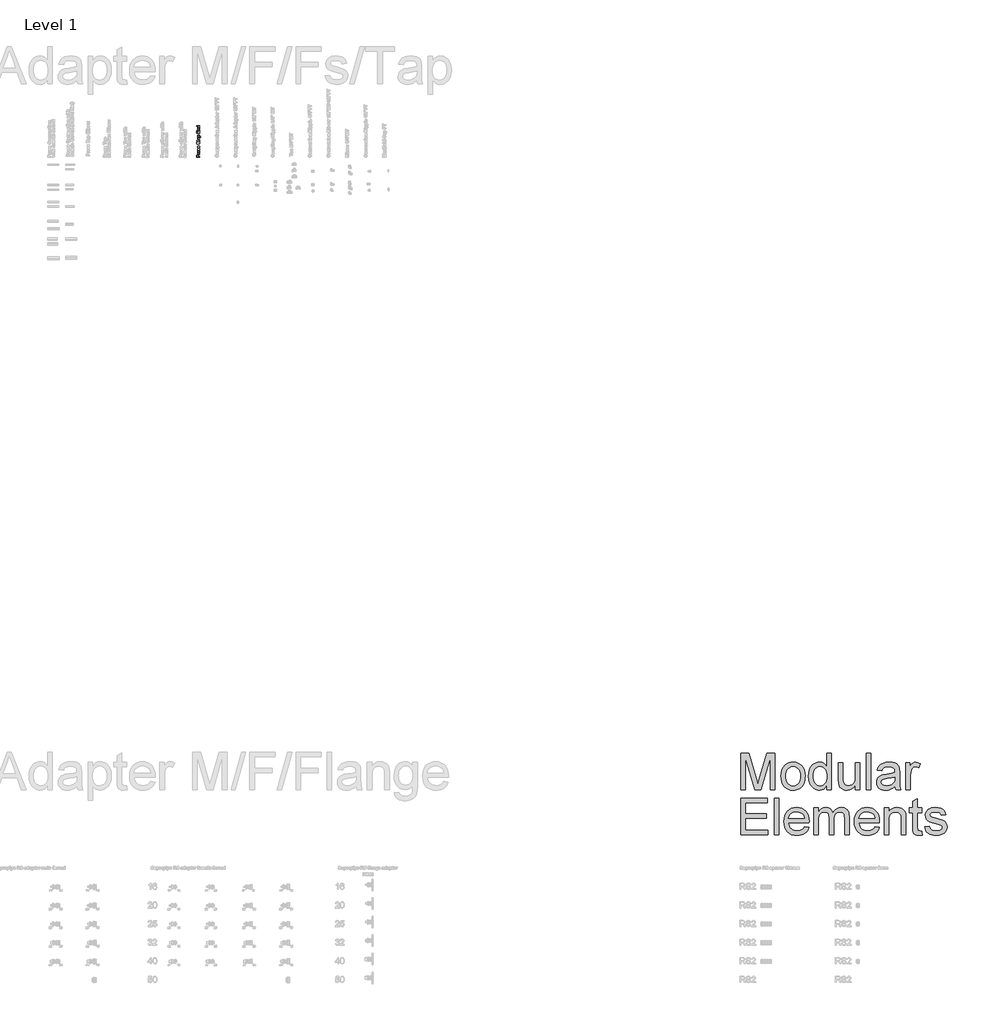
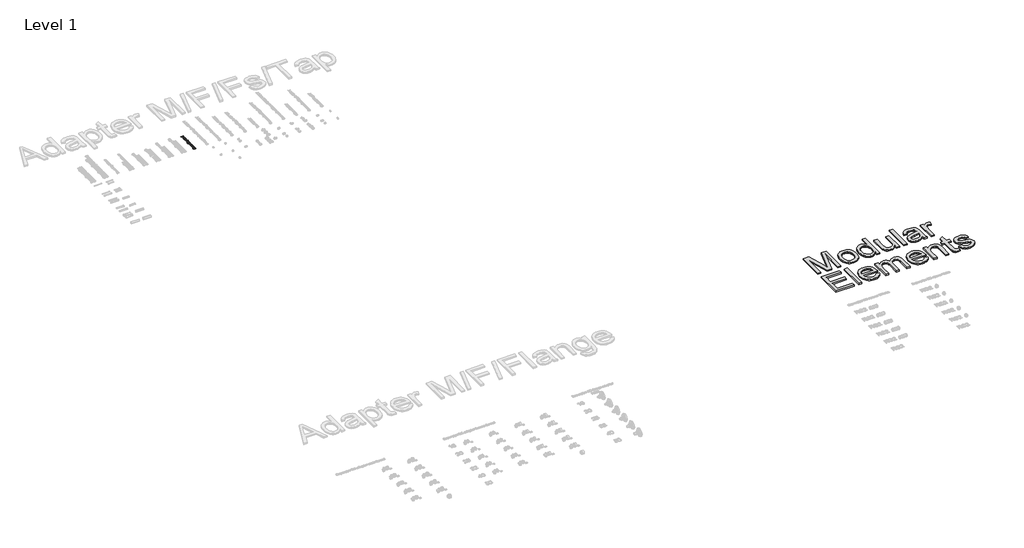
# One storey, part 53 of 58: 2 proxies.
"""IFC4 building model written with IfcOpenShell, lengths in millimetres."""

import ifcopenshell
import ifcopenshell.guid

model = None  # the IFC model being written
_history = None  # IfcOwnerHistory: only IFC2X3 demands one
_inside = {}  # id of a spatial element -> (the spatial element, [elements in it])
_under = {}  # id of a project, library or spatial element -> (it, [spatial elements below it])
_declared = {}  # id of a project -> (the project, [libraries it declares])
_typed = {}  # id of a type object -> (the type object, [elements of that type])
_made_of = {}  # id of a material, layer set ... -> (it, [elements and type objects made of it])


def new_model(schema):
    """Start an empty IFC model of exactly this schema.

    Asked for "IFC4X3", IfcOpenShell would pick the latest addendum, in which some entities
    have other attributes; the version numbers below select the first issue.
    IFC2X3 requires an IfcOwnerHistory on every rooted entity: one is made here for all.
    """
    global model, _history
    if schema == "IFC4X3":
        model = ifcopenshell.file(schema_version=(4, 3, 0, 0))
    else:
        model = ifcopenshell.file(schema=schema)
    _inside.clear()
    _under.clear()
    _declared.clear()
    _typed.clear()
    _made_of.clear()
    _history = None
    if model.schema == "IFC2X3":
        org = make("IfcOrganization", Name="unknown")
        user = make(
            "IfcPersonAndOrganization",
            ThePerson=make("IfcPerson", FamilyName="unknown"),
            TheOrganization=org,
        )
        app = make(
            "IfcApplication",
            ApplicationDeveloper=org,
            Version="unknown",
            ApplicationFullName="unknown",
            ApplicationIdentifier="unknown",
        )
        _history = make(
            "IfcOwnerHistory",
            OwningUser=user,
            OwningApplication=app,
            ChangeAction="ADDED",
            CreationDate=0,
        )
    return model


def make(cls, **values):
    """One entity of the class cls with the attributes given. An attribute that is None is left unset."""
    return model.create_entity(
        cls, **{name: value for name, value in values.items() if value is not None}
    )


def rooted(cls, **values):
    """An entity with a GlobalId (a new one), such as an element, a storey or a relation."""
    return make(cls, GlobalId=ifcopenshell.guid.new(), OwnerHistory=_history, **values)


def si_unit(unit_type, name, prefix=None):
    """IfcSIUnit, for example si_unit("LENGTHUNIT", "METRE", prefix="MILLI")."""
    return make("IfcSIUnit", UnitType=unit_type, Prefix=prefix, Name=name)


def assignment(units):
    """IfcUnitAssignment: the units of a project."""
    return None if units is None else make("IfcUnitAssignment", Units=units)


def point(xyz):
    """IfcCartesianPoint."""
    return None if xyz is None else make("IfcCartesianPoint", Coordinates=xyz)


def direction(xyz):
    """IfcDirection."""
    return None if xyz is None else make("IfcDirection", DirectionRatios=xyz)


def frame(location, z_axis=None, x_axis=None):
    """IfcAxis2Placement3D, a coordinate frame: its origin and axes. An axis left out is left unset."""
    return make(
        "IfcAxis2Placement3D",
        Location=point(location),
        Axis=direction(z_axis),
        RefDirection=direction(x_axis),
    )


def origin():
    """The frame at (0, 0, 0) with its axes left unset."""
    return frame((0.0, 0.0, 0.0))


def place(relative_to, where):
    """IfcLocalPlacement: puts the frame where relative to a parent placement (None: the world)."""
    return make(
        "IfcLocalPlacement", PlacementRelTo=relative_to, RelativePlacement=where
    )


def context(
    kind, dimensions, precision=None, world=None, true_north=None, identifier=None
):
    """IfcGeometricRepresentationContext, for example the 3D "Model" context."""
    return make(
        "IfcGeometricRepresentationContext",
        ContextIdentifier=identifier,
        ContextType=kind,
        CoordinateSpaceDimension=dimensions,
        Precision=precision,
        WorldCoordinateSystem=world,
        TrueNorth=true_north,
    )


def project(units=None, contexts=None):
    """IfcProject with its units and contexts."""
    return rooted(
        "IfcProject",
        Name="project",
        RepresentationContexts=contexts,
        UnitsInContext=assignment(units),
    )


def spatial(cls, under=None, at=None, **own):
    """A site, building, storey or space (cls), placed at a placement, below another one or the project."""
    s = rooted(cls, ObjectPlacement=at, **own)
    if under is not None:
        _under.setdefault(under.id(), (under, []))[1].append(s)
    return s


def polyline(points):
    """IfcPolyline through the points."""
    return make("IfcPolyline", Points=[point(p) for p in points])


def outline(outer, holes=None, kind="AREA"):
    """IfcArbitraryClosedProfileDef: a profile drawn as a closed curve; with holes, ...WithVoids."""
    if holes is None:
        return make("IfcArbitraryClosedProfileDef", ProfileType=kind, OuterCurve=outer)
    return make(
        "IfcArbitraryProfileDefWithVoids",
        ProfileType=kind,
        OuterCurve=outer,
        InnerCurves=holes,
    )


def extrude(swept, where, along, depth):
    """IfcExtrudedAreaSolid: the profile swept, set in the frame where, extruded along a direction by depth."""
    return make(
        "IfcExtrudedAreaSolid",
        SweptArea=swept,
        Position=where,
        ExtrudedDirection=direction(along),
        Depth=depth,
    )


def shape(context_of_items, identifier, shape_type, items):
    """IfcShapeRepresentation: the items that make up one representation, for example the "Body"."""
    return make(
        "IfcShapeRepresentation",
        ContextOfItems=context_of_items,
        RepresentationIdentifier=identifier,
        RepresentationType=shape_type,
        Items=items,
    )


def made_of(thing, what):
    """Note that an element or type object is made of a material, layer set ...; save() writes the relation."""
    if what is not None:
        _made_of.setdefault(what.id(), (what, []))[1].append(thing)
    return thing


def element(
    cls,
    number,
    at=None,
    inside=None,
    cuts=None,
    type_object=None,
    material=None,
    context=None,
    identifier="Body",
    shape_type=None,
    held_by="IfcProductDefinitionShape",
    body=None,
    shapes=None,
    **own,
):
    """One element of the class cls, such as IfcWall. Its Tag is "e" and its number.

    at: its placement. inside: the storey or other place that contains it. cuts: it is an
    opening in that element (IfcRelVoidsElement). A single representation is given by context,
    identifier, shape_type and body (its items); several are given by shapes. held_by: the class
    of the entity that holds the representations. save() writes the other relations.
    """
    e = rooted(cls, Tag="e%d" % number, ObjectPlacement=at, **own)
    if body is not None:
        shapes = [shape(context, identifier, shape_type, body)]
    if shapes is not None:
        e.Representation = make(held_by, Representations=shapes)
    if inside is not None:
        _inside.setdefault(inside.id(), (inside, []))[1].append(e)
    if cuts is not None:
        rooted(
            "IfcRelVoidsElement", RelatingBuildingElement=cuts, RelatedOpeningElement=e
        )
    if type_object is not None:
        _typed.setdefault(type_object.id(), (type_object, []))[1].append(e)
    return made_of(e, material)


def aggregate(whole, parts):
    """IfcRelAggregates: a whole, such as a stair, and the parts it consists of."""
    return rooted("IfcRelAggregates", RelatingObject=whole, RelatedObjects=parts)


def save(model, path):
    """Write the relations noted so far, then the file.

    IfcRelAggregates (storeys below a building ...), IfcRelContainedInSpatialStructure (elements
    in a storey), IfcRelDefinesByType, IfcRelAssociatesMaterial and IfcRelDeclares: one each for
    every whole, place, type object, material and project.
    """
    for whole, parts in _under.values():
        aggregate(whole, parts)
    for where, things in _inside.values():
        rooted(
            "IfcRelContainedInSpatialStructure",
            RelatedElements=things,
            RelatingStructure=where,
        )
    for kind, things in _typed.values():
        rooted("IfcRelDefinesByType", RelatedObjects=things, RelatingType=kind)
    for what, things in _made_of.values():
        rooted("IfcRelAssociatesMaterial", RelatedObjects=things, RelatingMaterial=what)
    for by, libraries in _declared.values():
        rooted("IfcRelDeclares", RelatingContext=by, RelatedDefinitions=libraries)
    model.write(path)


model = new_model("IFC4")

# Units and contexts
model_context = context("Model", 3, world=origin())
ifc_project = project(units=[si_unit("LENGTHUNIT", "METRE", prefix="MILLI")], contexts=[model_context])

# Site, building, storey
site = spatial("IfcSite", under=ifc_project)
building = spatial("IfcBuilding", under=site)
storey = spatial("IfcBuildingStorey", under=building, Name="Level 1", Elevation=27.3876384)

# Proxies
placement = place(None, origin())
element("IfcBuildingElementProxy", 1, Name="50mm Arial", ObjectType="50mm Arial", at=placement, inside=storey, context=model_context, shape_type="SweptSolid", body=[
    extrude(outline(polyline([(32119.1417262, 30406.1759681), (32068.1287562, 30406.1759681), (32068.1287562, 30422.6109503), (32068.8878778, 30434.7948516), (32073.8537981, 30442.1013968), (32083.7287046, 30445.0429929), (32091.5792869, 30443.3159913), (32096.5768373, 30438.9257382), (32098.9870483, 30433.516997), (32099.7082138, 30422.6995145), (32099.7082138, 30415.8927243), (32119.1417262, 30415.8927243), (32119.1417262, 30406.1759681)]), holes=[polyline([(32077.0357827, 30415.8927243), (32090.8011873, 30415.8927243), (32090.8011873, 30421.9277409), (32090.0420657, 30430.638661), (32087.6571588, 30434.0800121), (32083.8805289, 30435.3262367), (32079.5155798, 30433.5739311), (32077.3647354, 30429.1520479), (32077.0357827, 30421.2192274), (32077.0357827, 30415.8927243)])]), frame((0.0, 0.0, 27.3876384), z_axis=(0.0, 0.0, 1.0), x_axis=(1.0, 0.0, 0.0)), (0.0, 0.0, 1.0), 2.0),
    extrude(outline(polyline([(32119.1417262, 30462.8570459), (32119.1417262, 30453.1402897), (32081.8941608, 30453.1402897), (32081.8941608, 30462.8570459), (32087.0814916, 30462.8570459), (32082.2420915, 30466.741218), (32081.0844311, 30470.6633461), (32083.1340594, 30476.6224505), (32092.3826906, 30473.7883966), (32090.8011873, 30469.2842753), (32091.9082396, 30465.8619022), (32095.8999539, 30463.6604496), (32107.995291, 30462.8570459), (32119.1417262, 30462.8570459)])), frame((0.0, 0.0, 27.3876384), z_axis=(0.0, 0.0, 1.0), x_axis=(1.0, 0.0, 0.0)), (0.0, 0.0, 1.0), 2.0),
    extrude(outline(polyline([(32107.8055106, 30501.7240707), (32109.42497, 30511.4408269), (32117.2629003, 30505.6461988), (32119.9514559, 30495.7396622), (32118.3667896, 30487.5506382), (32113.6127907, 30481.8097813), (32100.7962881, 30478.2419099), (32086.32237, 30482.9737677), (32081.0844311, 30494.9425846), (32086.4615423, 30507.7590872), (32102.9471325, 30512.2505566), (32102.9471325, 30487.9586661), (32110.1081794, 30490.2486828), (32112.6638887, 30495.7017062), (32111.5125543, 30499.4340539), (32107.8055106, 30501.7240707)]), holes=[polyline([(32097.2790248, 30502.5338004), (32090.643037, 30500.3703039), (32088.3719982, 30495.3601015), (32090.7632312, 30490.1474666), (32097.2790248, 30488.1231424), (32097.2790248, 30502.5338004)])]), frame((0.0, 0.0, 27.3876384), z_axis=(0.0, 0.0, 1.0), x_axis=(1.0, 0.0, 0.0)), (0.0, 0.0, 1.0), 2.0),
    extrude(outline(polyline([(32108.6152403, 30515.4894753), (32106.9957809, 30525.2062315), (32111.2215577, 30527.6923546), (32112.6638887, 30532.9366195), (32111.2848179, 30538.5161631), (32108.7038045, 30539.7813658), (32106.8819127, 30539.1108084), (32105.604058, 30535.9351498), (32100.8468962, 30521.3726675), (32092.4839068, 30517.1089346), (32084.3739579, 30520.7653702), (32081.0844311, 30532.1142378), (32083.7413566, 30542.9823284), (32091.610917, 30547.8786626), (32093.2303763, 30538.1619064), (32089.6245488, 30536.2894065), (32088.3719982, 30532.3672784), (32089.4347685, 30527.7492888), (32091.4084846, 30526.8256908), (32093.1671162, 30527.7492888), (32095.8873019, 30536.3463406), (32100.2269469, 30546.61346), (32107.527166, 30549.4981219), (32116.2886942, 30545.3166273), (32119.9514559, 30532.9366195), (32116.9023175, 30521.1639091), (32108.6152403, 30515.4894753)])), frame((0.0, 0.0, 27.3876384), z_axis=(0.0, 0.0, 1.0), x_axis=(1.0, 0.0, 0.0)), (0.0, 0.0, 1.0), 2.0),
    extrude(outline(polyline([(32108.6152403, 30554.3565), (32106.9957809, 30564.0732562), (32111.2215577, 30566.5593794), (32112.6638887, 30571.8036443), (32111.2848179, 30577.3831879), (32108.7038045, 30578.6483905), (32106.8819127, 30577.9778331), (32105.604058, 30574.8021745), (32100.8468962, 30560.2396923), (32092.4839068, 30555.9759594), (32084.3739579, 30559.632395), (32081.0844311, 30570.9812626), (32083.7413566, 30581.8493532), (32091.610917, 30586.7456873), (32093.2303763, 30577.0289312), (32089.6245488, 30575.1564313), (32088.3719982, 30571.2343031), (32089.4347685, 30566.6163135), (32091.4084846, 30565.6927156), (32093.1671162, 30566.6163135), (32095.8873019, 30575.2133654), (32100.2269469, 30585.4804847), (32107.527166, 30588.3651467), (32116.2886942, 30584.183652), (32119.9514559, 30571.8036443), (32116.9023175, 30560.0309338), (32108.6152403, 30554.3565)])), frame((0.0, 0.0, 27.3876384), z_axis=(0.0, 0.0, 1.0), x_axis=(1.0, 0.0, 0.0)), (0.0, 0.0, 1.0), 2.0),
    extrude(outline(polyline([(32102.1374028, 30614.2764965), (32101.3276732, 30623.9932527), (32108.6911525, 30627.7888606), (32111.0444294, 30635.4939446), (32108.963171, 30643.2496367), (32104.0984669, 30645.8559542), (32101.0556546, 30644.7742059), (32098.8731801, 30640.984924), (32096.7096836, 30632.5586745), (32091.7374372, 30620.6910739), (32081.501948, 30615.8959559), (32074.2396849, 30618.0974085), (32069.0903102, 30624.4487257), (32067.3190265, 30634.4564785), (32071.7345837, 30648.8734624), (32083.5136201, 30653.953251), (32083.5136201, 30644.2364948), (32077.9277505, 30641.3075507), (32076.226053, 30634.5703467), (32078.0352928, 30627.3080836), (32081.1476912, 30625.6127121), (32084.1968296, 30627.1562593), (32087.5179865, 30636.6769091), (32091.1111619, 30647.8549743), (32096.2542106, 30653.5230821), (32104.3135514, 30655.5727104), (32112.4614563, 30653.1498473), (32118.10426, 30646.2924491), (32119.9514559, 30635.2409041), (32115.4030524, 30620.4380334), (32102.1374028, 30614.2764965)])), frame((0.0, 0.0, 27.3876384), z_axis=(0.0, 0.0, 1.0), x_axis=(1.0, 0.0, 0.0)), (0.0, 0.0, 1.0), 2.0),
    extrude(outline(polyline([(32081.8941608, 30681.4840602), (32089.1817279, 30681.4840602), (32089.1817279, 30674.1964931), (32105.1612371, 30674.1964931), (32110.8103669, 30674.4179035), (32112.1388296, 30675.4237396), (32112.6638887, 30677.3341956), (32111.7276388, 30681.888925), (32118.6356451, 30682.2937899), (32119.9514559, 30674.3356653), (32119.04051, 30669.4266791), (32116.6872331, 30666.2193905), (32112.777757, 30664.7960375), (32105.7052743, 30664.4797369), (32089.1817279, 30664.4797369), (32089.1817279, 30659.6213588), (32081.8941608, 30659.6213588), (32081.8941608, 30664.4797369), (32074.6065936, 30664.4797369), (32068.9384859, 30674.1964931), (32081.8941608, 30674.1964931), (32081.8941608, 30681.4840602)])), frame((0.0, 0.0, 27.3876384), z_axis=(0.0, 0.0, 1.0), x_axis=(1.0, 0.0, 0.0)), (0.0, 0.0, 1.0), 2.0),
    extrude(outline(polyline([(32099.9865584, 30684.7229789), (32090.5038647, 30687.1205379), (32083.5009681, 30693.90835), (32081.0844311, 30703.7136704), (32086.5627585, 30717.4347929), (32100.4167273, 30722.780274), (32114.4035423, 30717.3778588), (32119.9514559, 30703.7895825), (32117.6424611, 30694.1171084), (32110.867301, 30687.1205379), (32099.9865584, 30684.7229789)]), holes=[polyline([(32100.5179435, 30694.4397351), (32109.5325122, 30697.1282907), (32112.6638887, 30703.7642785), (32109.5325122, 30710.3876143), (32100.4420313, 30713.0635178), (32091.5033747, 30710.3876143), (32088.3719982, 30703.7642785), (32091.5033747, 30697.1282907), (32100.5179435, 30694.4397351)])]), frame((0.0, 0.0, 27.3876384), z_axis=(0.0, 0.0, 1.0), x_axis=(1.0, 0.0, 0.0)), (0.0, 0.0, 1.0), 2.0),
    extrude(outline(polyline([(32081.8941608, 30730.0678411), (32081.8941608, 30739.7845973), (32087.2586199, 30739.7845973), (32082.7924546, 30744.4025869), (32081.0844311, 30750.8677724), (32086.1642197, 30761.3752802), (32100.302859, 30765.6959472), (32114.7894291, 30761.2361079), (32119.9514559, 30750.4249514), (32118.7495134, 30744.9466241), (32114.6249528, 30739.7845973), (32132.9071308, 30739.7845973), (32132.9071308, 30730.0678411), (32081.8941608, 30730.0678411)]), holes=[polyline([(32099.8726901, 30739.7845973), (32109.5388382, 30742.2201124), (32112.6638887, 30748.1602387), (32109.7982048, 30753.7461083), (32100.3914232, 30755.979191), (32091.3325724, 30753.6828482), (32088.3719982, 30747.9831104), (32091.2756383, 30742.1188962), (32099.8726901, 30739.7845973)])]), frame((0.0, 0.0, 27.3876384), z_axis=(0.0, 0.0, 1.0), x_axis=(1.0, 0.0, 0.0)), (0.0, 0.0, 1.0), 2.0),
    extrude(outline(polyline([(32119.1417262, 30792.4170267), (32068.1287562, 30792.4170267), (32068.1287562, 30830.4743218), (32077.0357827, 30830.4743218), (32077.0357827, 30802.1337829), (32088.3719982, 30802.1337829), (32088.3719982, 30828.8548624), (32097.2790248, 30828.8548624), (32097.2790248, 30802.1337829), (32110.2346997, 30802.1337829), (32110.2346997, 30831.2840515), (32119.1417262, 30831.2840515), (32119.1417262, 30792.4170267)])), frame((0.0, 0.0, 27.3876384), z_axis=(0.0, 0.0, 1.0), x_axis=(1.0, 0.0, 0.0)), (0.0, 0.0, 1.0), 2.0),
    extrude(outline(polyline([(32119.1417262, 30872.5802653), (32119.1417262, 30862.8635091), (32099.9992104, 30862.8635091), (32092.1296501, 30862.2562118), (32089.3588563, 30860.2698437), (32088.3719982, 30856.9676648), (32089.7826992, 30852.5204776), (32093.527699, 30849.825596), (32102.1500549, 30849.0981045), (32119.1417262, 30849.0981045), (32119.1417262, 30839.3813483), (32081.8941608, 30839.3813483), (32081.8941608, 30849.0981045), (32087.2586199, 30849.0981045), (32082.6279783, 30854.3139023), (32081.0844311, 30860.7253166), (32082.2610695, 30866.3681204), (32085.2595998, 30870.2396404), (32089.3904864, 30872.0678582), (32096.0138221, 30872.5802653), (32119.1417262, 30872.5802653)])), frame((0.0, 0.0, 27.3876384), z_axis=(0.0, 0.0, 1.0), x_axis=(1.0, 0.0, 0.0)), (0.0, 0.0, 1.0), 2.0),
    extrude(outline(polyline([(32119.1417262, 30915.4959384), (32119.1417262, 30905.7791822), (32113.777267, 30905.7791822), (32118.4268867, 30900.6487856), (32119.9514559, 30894.6960072), (32114.7894291, 30884.2264555), (32100.3787712, 30879.8678324), (32086.0060693, 30884.2201295), (32081.0844311, 30895.2273923), (32086.1831977, 30905.7791822), (32068.1287562, 30905.7791822), (32068.1287562, 30915.4959384), (32119.1417262, 30915.4959384)]), holes=[polyline([(32099.80943, 30889.5845886), (32108.6911525, 30891.204048), (32112.6638887, 30897.7451456), (32109.6843365, 30903.4385574), (32100.783636, 30905.7791822), (32091.2756383, 30903.5081435), (32088.3719982, 30897.6818854), (32091.2440082, 30891.9125614), (32099.80943, 30889.5845886)])]), frame((0.0, 0.0, 27.3876384), z_axis=(0.0, 0.0, 1.0), x_axis=(1.0, 0.0, 0.0)), (0.0, 0.0, 1.0), 2.0),
])
element("IfcBuildingElementProxy", 2, Name="600mm Arial", ObjectType="600mm Arial", at=placement, inside=storey, context=model_context, shape_type="SweptSolid", body=[
    extrude(outline(polyline([(40845.4337219, 20213.7679008), (40845.4337219, 20804.5371316), (40972.5010296, 20804.5371316), (41093.3664142, 20388.1429008), (41117.7414142, 20301.171747), (41144.1356449, 20395.3544393), (41262.9817988, 20804.5371316), (41390.0491065, 20804.5371316), (41390.0491065, 20213.7679008), (41316.2029526, 20213.7679008), (41316.2029526, 20730.6909777), (41167.7894911, 20213.7679008), (41067.6933372, 20213.7679008), (40919.2798757, 20730.6909777), (40919.2798757, 20213.7679008), (40845.4337219, 20213.7679008)])), frame((0.0, 0.0, 27.3876384), z_axis=(0.0, 0.0, 1.0), x_axis=(1.0, 0.0, 0.0)), (0.0, 0.0, 1.0), 30.0),
    extrude(outline(polyline([(41491.587568, 20430.6909777), (41495.5809574, 20486.8778768), (41507.5611257, 20535.2943431), (41527.5280728, 20575.9403768), (41555.4817988, 20608.8159777), (41583.6248276, 20629.8285979), (41614.6885296, 20644.8376123), (41648.6729046, 20653.843021), (41685.5779526, 20656.8448239), (41726.3186377, 20653.1894753), (41763.1560776, 20642.2234297), (41796.0902723, 20623.9466869), (41825.1212219, 20598.359247), (41848.8156329, 20566.3264946), (41865.7402122, 20528.7138143), (41875.8949598, 20485.5212061), (41879.2798757, 20436.74867), (41877.7834815, 20397.2204248), (41873.2942988, 20362.1453047), (41865.8123276, 20331.5233095), (41855.337568, 20305.3544393), (41842.0007291, 20282.7507734), (41825.9325199, 20262.8243912), (41807.1329406, 20245.5752926), (41785.6019911, 20231.0034777), (41762.1780127, 20219.4244513), (41737.6993469, 20211.1537181), (41712.1659935, 20206.1912782), (41685.5779526, 20204.5371316), (41644.2423156, 20208.1789585), (41607.0623276, 20219.1044393), (41574.0379887, 20237.3135739), (41545.1692988, 20262.8063623), (41521.7272916, 20295.1501123), (41504.9830007, 20333.9121316), (41494.9364262, 20379.09242), (41491.587568, 20430.6909777)]), holes=[polyline([(41565.4337219, 20430.8352085), (41567.5701401, 20395.0163984), (41573.9793949, 20364.0022758), (41584.6614863, 20337.7928407), (41599.6164142, 20316.3880931), (41617.8075199, 20299.7609897), (41638.1981449, 20287.8844873), (41660.7882892, 20280.7585859), (41685.5779526, 20278.3832854), (41710.2414142, 20280.7721075), (41732.7414142, 20287.9385739), (41753.0779526, 20299.8826845), (41771.2510296, 20316.6044393), (41786.2059574, 20338.2210258), (41796.8880488, 20364.8496316), (41803.2973036, 20396.4902566), (41805.4337219, 20433.1429008), (41803.283782, 20467.8258936), (41796.8339622, 20498.0287181), (41786.0842627, 20523.7513744), (41771.0346834, 20544.9938623), (41752.7939983, 20561.6209657), (41732.4709815, 20573.4974681), (41710.0656329, 20580.6233696), (41685.5779526, 20582.99867), (41660.7882892, 20580.632384), (41638.1981449, 20573.5335258), (41617.8075199, 20561.7020955), (41599.6164142, 20545.1380931), (41584.6614863, 20523.7964465), (41573.9793949, 20497.6320835), (41567.5701401, 20466.6450042), (41565.4337219, 20430.8352085)])]), frame((0.0, 0.0, 27.3876384), z_axis=(0.0, 0.0, 1.0), x_axis=(1.0, 0.0, 0.0)), (0.0, 0.0, 1.0), 30.0),
    extrude(outline(polyline([(42230.0491065, 20213.7679008), (42230.0491065, 20283.4313623), (42207.9547555, 20248.9151364), (42181.1909334, 20224.2606893), (42149.7576401, 20209.468021), (42113.6548757, 20204.5371316), (42089.2798757, 20206.3219873), (42065.9144911, 20211.6765547), (42043.5587219, 20220.6008335), (42022.212568, 20233.0948239), (42002.5430969, 20248.7844272), (41985.2173757, 20267.295545), (41970.2354046, 20288.6281772), (41957.5971834, 20312.7823239), (41947.5641305, 20339.2982494), (41940.3976642, 20367.7162181), (41934.6644911, 20430.2582854), (41939.946943, 20492.0251123), (41955.7942988, 20547.8063623), (41967.6753084, 20572.6591268), (41982.1885296, 20594.4289585), (41999.3339622, 20613.1158575), (42019.1116065, 20628.7198239), (42040.8228445, 20641.0245114), (42063.7690584, 20649.8135739), (42087.9502483, 20655.0870114), (42113.3664142, 20656.8448239), (42149.4962219, 20651.8147758), (42181.4433372, 20636.7246316), (42208.5226642, 20613.593622), (42230.0491065, 20584.4409777), (42230.0491065, 20804.5371316), (42303.8952603, 20804.5371316), (42303.8952603, 20213.7679008), (42230.0491065, 20213.7679008)]), holes=[polyline([(42008.5106449, 20430.546747), (42010.5929767, 20394.7369513), (42016.8399719, 20363.749872), (42027.2516305, 20337.585509), (42041.8279526, 20316.2438623), (42059.2348036, 20299.6798599), (42078.1380488, 20287.8484297), (42098.5376882, 20280.7495715), (42120.4337219, 20278.3832854), (42142.4334214, 20280.6413984), (42162.7113661, 20287.4157373), (42181.267556, 20298.7063022), (42198.1019911, 20314.5130931), (42212.0788541, 20334.9623119), (42222.0623276, 20360.1801604), (42228.0524118, 20390.1666388), (42230.0491065, 20424.921747), (42228.0163541, 20463.0257133), (42221.9180969, 20495.702997), (42211.7543348, 20522.9535979), (42197.525068, 20544.7775162), (42180.3210416, 20561.499271), (42161.2330007, 20573.4433816), (42140.2609454, 20580.6098479), (42117.4048757, 20582.99867), (42095.0761497, 20580.7044994), (42074.6765103, 20573.8219873), (42056.2059574, 20562.351134), (42039.6644911, 20546.2919393), (42026.0346834, 20525.2928407), (42016.2991065, 20499.0022758), (42010.4577603, 20467.4202446), (42008.5106449, 20430.546747)])]), frame((0.0, 0.0, 27.3876384), z_axis=(0.0, 0.0, 1.0), x_axis=(1.0, 0.0, 0.0)), (0.0, 0.0, 1.0), 30.0),
    extrude(outline(polyline([(42691.587568, 20213.7679008), (42691.587568, 20288.3352085), (42664.868818, 20251.6735498), (42633.7510296, 20225.4866508), (42598.2342026, 20209.7745114), (42558.3183372, 20204.5371316), (42522.3507892, 20208.2150162), (42488.8712219, 20219.24867), (42460.7822796, 20235.8352085), (42440.9866065, 20256.171747), (42427.6632892, 20280.8712662), (42418.9914142, 20310.546747), (42414.6644911, 20379.2005931), (42414.6644911, 20647.6140547), (42488.5106449, 20647.6140547), (42488.5106449, 20413.9602085), (42489.6284334, 20367.2294393), (42492.9817988, 20338.671747), (42503.7450199, 20313.5575643), (42522.1885296, 20294.4650162), (42547.0863661, 20282.4037181), (42577.212568, 20278.3832854), (42609.0695392, 20282.4938623), (42638.8712219, 20294.8255931), (42663.4445392, 20314.2426604), (42679.6164142, 20339.609247), (42688.5947796, 20374.3508335), (42691.587568, 20421.8929008), (42691.587568, 20647.6140547), (42765.4337219, 20647.6140547), (42765.4337219, 20213.7679008), (42691.587568, 20213.7679008)])), frame((0.0, 0.0, 27.3876384), z_axis=(0.0, 0.0, 1.0), x_axis=(1.0, 0.0, 0.0)), (0.0, 0.0, 1.0), 30.0),
    extrude(outline(polyline([(42866.9721834, 20213.7679008), (42866.9721834, 20804.5371316), (42940.8183372, 20804.5371316), (42940.8183372, 20213.7679008), (42866.9721834, 20213.7679008)])), frame((0.0, 0.0, 27.3876384), z_axis=(0.0, 0.0, 1.0), x_axis=(1.0, 0.0, 0.0)), (0.0, 0.0, 1.0), 30.0),
    extrude(outline(polyline([(43328.5106449, 20269.1525162), (43293.228193, 20238.9001123), (43256.900068, 20219.1044393), (43218.696943, 20208.1789585), (43177.7894911, 20204.5371316), (43144.9093829, 20206.7276364), (43116.0767507, 20213.2991508), (43091.2915945, 20224.2516748), (43070.5539142, 20239.5852085), (43054.1792147, 20258.3261941), (43042.4830007, 20279.5010739), (43035.4652723, 20303.1098479), (43033.1260296, 20329.1525162), (43036.6596834, 20359.765497), (43047.2606449, 20387.5659777), (43063.6128084, 20411.3640547), (43084.400068, 20429.9698239), (43108.8291546, 20444.0323239), (43136.1067988, 20454.2005931), (43200.0010296, 20465.3063623), (43275.5058372, 20476.9890547), (43328.0779526, 20490.6909777), (43328.5106449, 20507.1332854), (43323.4265103, 20540.0900162), (43317.0713421, 20552.295545), (43308.1741065, 20561.6525162), (43292.7955007, 20570.9914585), (43274.0635296, 20577.6621316), (43226.5394911, 20582.99867), (43182.5491065, 20579.4469873), (43151.8279526, 20568.7919393), (43130.8784334, 20549.0864104), (43116.2029526, 20518.3832854), (43042.3567988, 20527.6140547), (43055.1753084, 20567.99867), (43074.3039142, 20599.7294393), (43101.5274719, 20623.9962662), (43138.6308372, 20641.9890547), (43184.009443, 20653.1308816), (43236.0587219, 20656.8448239), (43285.9805969, 20653.5635739), (43325.5539142, 20643.7198239), (43355.3916546, 20628.9181412), (43376.1067988, 20610.7630931), (43389.8447796, 20588.3171797), (43398.7510296, 20560.6429008), (43402.3567988, 20496.0275162), (43402.3567988, 20404.1525162), (43406.1067988, 20275.859247), (43411.6596834, 20244.1465066), (43420.8183372, 20213.7679008), (43346.9721834, 20213.7679008), (43335.1452603, 20239.4409777), (43328.5106449, 20269.1525162)]), holes=[polyline([(43328.5106449, 20416.8448239), (43278.8952603, 20404.5491508), (43209.3760296, 20394.2005931), (43145.8423757, 20382.2294393), (43129.3099238, 20374.0443431), (43117.0683372, 20362.7582854), (43109.4962219, 20349.2366508), (43106.9721834, 20334.3448239), (43112.4709815, 20312.3856893), (43128.9673757, 20294.3929008), (43156.1007892, 20282.3856893), (43193.5106449, 20278.3832854), (43233.1741065, 20282.8003527), (43268.2221834, 20296.0515547), (43296.6356449, 20315.576795), (43316.3952603, 20338.8159777), (43325.1572796, 20362.7582854), (43328.0779526, 20395.9313623), (43328.5106449, 20416.8448239)])]), frame((0.0, 0.0, 27.3876384), z_axis=(0.0, 0.0, 1.0), x_axis=(1.0, 0.0, 0.0)), (0.0, 0.0, 1.0), 30.0),
    extrude(outline(polyline([(43503.8952603, 20213.7679008), (43503.8952603, 20647.6140547), (43568.5106449, 20647.6140547), (43568.5106449, 20583.4313623), (43592.3808372, 20620.6429008), (43614.3760296, 20642.5659777), (43636.4433372, 20653.2751123), (43660.5298757, 20656.8448239), (43697.3087219, 20651.1477085), (43734.6644911, 20634.0563623), (43710.0010296, 20567.8544393), (43684.0394911, 20579.2126123), (43658.0779526, 20582.99867), (43636.0286738, 20579.3568431), (43616.3231449, 20568.4313623), (43600.4036738, 20551.0515547), (43589.712568, 20528.046747), (43580.7342026, 20486.796747), (43577.7414142, 20441.796747), (43577.7414142, 20213.7679008), (43503.8952603, 20213.7679008)])), frame((0.0, 0.0, 27.3876384), z_axis=(0.0, 0.0, 1.0), x_axis=(1.0, 0.0, 0.0)), (0.0, 0.0, 1.0), 30.0),
    extrude(outline(polyline([(40845.4337219, 19484.5371316), (40845.4337219, 20075.3063623), (41270.0491065, 20075.3063623), (41270.0491065, 20001.4602085), (40919.2798757, 20001.4602085), (40919.2798757, 19826.0755931), (41251.587568, 19826.0755931), (41251.587568, 19752.2294393), (40919.2798757, 19752.2294393), (40919.2798757, 19558.3832854), (41279.2798757, 19558.3832854), (41279.2798757, 19484.5371316), (40845.4337219, 19484.5371316)])), frame((0.0, 0.0, 27.3876384), z_axis=(0.0, 0.0, 1.0), x_axis=(1.0, 0.0, 0.0)), (0.0, 0.0, 1.0), 30.0),
    extrude(outline(polyline([(41380.8183372, 19484.5371316), (41380.8183372, 20075.3063623), (41454.6644911, 20075.3063623), (41454.6644911, 19484.5371316), (41380.8183372, 19484.5371316)])), frame((0.0, 0.0, 27.3876384), z_axis=(0.0, 0.0, 1.0), x_axis=(1.0, 0.0, 0.0)), (0.0, 0.0, 1.0), 30.0),
    extrude(outline(polyline([(41869.1837219, 19613.7679008), (41941.587568, 19604.5371316), (41930.486306, 19575.5377325), (41915.4998276, 19549.9818431), (41896.6281329, 19527.8694633), (41873.8712219, 19509.2005931), (41847.4634695, 19494.3718672), (41817.6392507, 19483.77992), (41784.3985656, 19477.4247518), (41747.7414142, 19475.3063623), (41701.9211017, 19478.9617109), (41661.0947796, 19489.9277566), (41625.2624478, 19508.2044994), (41594.4241065, 19533.7919393), (41569.6254286, 19565.9779369), (41551.9120872, 19604.0503527), (41541.2840824, 19648.0091869), (41537.7414142, 19697.8544393), (41541.3201401, 19749.389896), (41552.056318, 19794.8135739), (41569.9499478, 19834.1254729), (41595.0010296, 19867.3255931), (41625.7582411, 19893.701795), (41660.7702603, 19912.5419393), (41700.0370872, 19923.8460258), (41743.5587219, 19927.6140547), (41785.6786137, 19923.8550402), (41823.7690584, 19912.577997), (41857.830056, 19893.7829248), (41887.8616065, 19867.4698239), (41912.37633, 19834.3418191), (41929.8868469, 19795.1020354), (41940.393157, 19749.7504729), (41943.8952603, 19698.2871316), (41943.462568, 19678.3832854), (41611.587568, 19678.3832854), (41615.8649118, 19648.9151364), (41624.3700199, 19623.1068431), (41637.1028925, 19600.9584056), (41654.0635296, 19582.4698239), (41674.314431, 19567.8935018), (41696.9180969, 19557.4818431), (41721.8745272, 19551.2348479), (41749.1837219, 19549.1525162), (41788.4866065, 19553.0106893), (41821.587568, 19564.5852085), (41848.4866065, 19584.5972277), (41869.1837219, 19613.7679008)]), holes=[polyline([(41611.587568, 19752.2294393), (41870.0491065, 19752.2294393), (41860.0611257, 19791.2438623), (41851.4703805, 19806.5864104), (41840.4817988, 19819.1525162), (41820.3435776, 19834.296747), (41797.4289142, 19845.1140547), (41771.7378084, 19851.6044393), (41743.2702603, 19853.7679008), (41717.3042147, 19852.0416388), (41693.4926161, 19846.8628527), (41671.8354647, 19838.2315426), (41652.3327603, 19826.1477085), (41635.9670752, 19811.1702446), (41623.7209815, 19793.858045), (41615.5944791, 19774.2111099), (41611.587568, 19752.2294393)])]), frame((0.0, 0.0, 27.3876384), z_axis=(0.0, 0.0, 1.0), x_axis=(1.0, 0.0, 0.0)), (0.0, 0.0, 1.0), 30.0),
    extrude(outline(polyline([(42017.7414142, 19484.5371316), (42017.7414142, 19918.3832854), (42091.587568, 19918.3832854), (42091.587568, 19846.9890547), (42113.7991065, 19879.7835258), (42142.3567988, 19905.4746316), (42176.2870872, 19922.0791989), (42214.6164142, 19927.6140547), (42255.6861257, 19921.9710258), (42273.1650921, 19914.9172397), (42288.6067988, 19905.0419393), (42313.1981449, 19877.9445835), (42329.2798757, 19841.796747), (42356.196943, 19879.3418191), (42386.900068, 19906.1597277), (42421.3892507, 19922.2504729), (42459.6644911, 19927.6140547), (42489.2272916, 19925.3829849), (42515.1753084, 19918.6897758), (42537.5085416, 19907.5344272), (42556.2269911, 19891.9169393), (42571.0241666, 19871.6570234), (42581.5935776, 19846.5743912), (42587.9352243, 19816.6690426), (42590.0491065, 19781.9409777), (42590.0491065, 19484.5371316), (42516.2029526, 19484.5371316), (42516.2029526, 19750.2102085), (42514.4902122, 19787.0431412), (42509.3519911, 19811.8688623), (42499.7245872, 19828.8700643), (42484.5442988, 19842.2294393), (42465.0190584, 19850.8832854), (42442.3567988, 19853.7679008), (42421.4298156, 19851.9199441), (42402.3507892, 19846.3760739), (42385.1197195, 19837.1362902), (42369.7366065, 19824.2005931), (42357.0848637, 19807.1903768), (42348.0479046, 19785.7270354), (42342.6257291, 19759.8105691), (42340.8183372, 19729.4409777), (42340.8183372, 19484.5371316), (42266.9721834, 19484.5371316), (42266.9721834, 19758.4313623), (42262.6993469, 19800.18617), (42249.8808372, 19829.9698239), (42239.9694791, 19840.3814825), (42227.3267507, 19847.8183816), (42211.9526522, 19852.280521), (42193.8471834, 19853.7679008), (42165.3976642, 19849.8015547), (42139.1837219, 19837.9025162), (42117.5491065, 19818.359247), (42102.837568, 19791.4602085), (42094.400068, 19754.140497), (42091.587568, 19703.3352085), (42091.587568, 19484.5371316), (42017.7414142, 19484.5371316)])), frame((0.0, 0.0, 27.3876384), z_axis=(0.0, 0.0, 1.0), x_axis=(1.0, 0.0, 0.0)), (0.0, 0.0, 1.0), 30.0),
    extrude(outline(polyline([(43004.5683372, 19613.7679008), (43076.9721834, 19604.5371316), (43065.8709214, 19575.5377325), (43050.884443, 19549.9818431), (43032.0127483, 19527.8694633), (43009.2558372, 19509.2005931), (42982.8480848, 19494.3718672), (42953.0238661, 19483.77992), (42919.783181, 19477.4247518), (42883.1260296, 19475.3063623), (42837.3057171, 19478.9617109), (42796.4793949, 19489.9277566), (42760.6470632, 19508.2044994), (42729.8087219, 19533.7919393), (42705.010044, 19565.9779369), (42687.2967026, 19604.0503527), (42676.6686978, 19648.0091869), (42673.1260296, 19697.8544393), (42676.7047555, 19749.389896), (42687.4409334, 19794.8135739), (42705.3345632, 19834.1254729), (42730.3856449, 19867.3255931), (42761.1428565, 19893.701795), (42796.1548757, 19912.5419393), (42835.4217026, 19923.8460258), (42878.9433372, 19927.6140547), (42921.0632291, 19923.8550402), (42959.1536738, 19912.577997), (42993.2146714, 19893.7829248), (43023.2462219, 19867.4698239), (43047.7609454, 19834.3418191), (43065.2714622, 19795.1020354), (43075.7777723, 19749.7504729), (43079.2798757, 19698.2871316), (43078.8471834, 19678.3832854), (42746.9721834, 19678.3832854), (42751.2495272, 19648.9151364), (42759.7546353, 19623.1068431), (42772.4875079, 19600.9584056), (42789.4481449, 19582.4698239), (42809.6990464, 19567.8935018), (42832.3027122, 19557.4818431), (42857.2591425, 19551.2348479), (42884.5683372, 19549.1525162), (42923.8712219, 19553.0106893), (42956.9721834, 19564.5852085), (42983.8712219, 19584.5972277), (43004.5683372, 19613.7679008)]), holes=[polyline([(42746.9721834, 19752.2294393), (43005.4337219, 19752.2294393), (42995.4457411, 19791.2438623), (42986.8549959, 19806.5864104), (42975.8664142, 19819.1525162), (42955.728193, 19834.296747), (42932.8135296, 19845.1140547), (42907.1224238, 19851.6044393), (42878.6548757, 19853.7679008), (42852.68883, 19852.0416388), (42828.8772315, 19846.8628527), (42807.22008, 19838.2315426), (42787.7173757, 19826.1477085), (42771.3516906, 19811.1702446), (42759.1055969, 19793.858045), (42750.9790945, 19774.2111099), (42746.9721834, 19752.2294393)])]), frame((0.0, 0.0, 27.3876384), z_axis=(0.0, 0.0, 1.0), x_axis=(1.0, 0.0, 0.0)), (0.0, 0.0, 1.0), 30.0),
    extrude(outline(polyline([(43153.1260296, 19484.5371316), (43153.1260296, 19918.3832854), (43226.9721834, 19918.3832854), (43226.9721834, 19857.8063623), (43252.6272315, 19888.3472277), (43283.4385296, 19910.1621316), (43319.4060776, 19923.2510739), (43360.5298757, 19927.6140547), (43396.9301161, 19924.0984297), (43430.2654526, 19913.5515547), (43458.0659334, 19897.2895354), (43477.8616065, 19876.6284777), (43491.2930969, 19851.6224681), (43500.0010296, 19822.3255931), (43503.8952603, 19750.9313623), (43503.8952603, 19484.5371316), (43430.0491065, 19484.5371316), (43430.0491065, 19740.9794393), (43427.9217026, 19779.1645354), (43421.5394911, 19806.3159777), (43409.7666546, 19825.7691027), (43391.4673757, 19840.859247), (43368.0118469, 19850.5407373), (43340.7702603, 19853.7679008), (43318.3468829, 19851.9560018), (43297.5190584, 19846.5203047), (43278.2867868, 19837.4608095), (43260.650068, 19824.7775162), (43245.9159935, 19807.0281172), (43235.3916546, 19782.7703047), (43229.0770512, 19752.0040787), (43226.9721834, 19714.7294393), (43226.9721834, 19484.5371316), (43153.1260296, 19484.5371316)])), frame((0.0, 0.0, 27.3876384), z_axis=(0.0, 0.0, 1.0), x_axis=(1.0, 0.0, 0.0)), (0.0, 0.0, 1.0), 30.0),
    extrude(outline(polyline([(43762.3567988, 19546.12367), (43771.587568, 19482.37367), (43716.3471834, 19475.3063623), (43680.9024719, 19478.3712662), (43654.4721834, 19487.5659777), (43635.7942988, 19501.7366508), (43623.6067988, 19519.7294393), (43616.900068, 19550.6308816), (43614.6644911, 19603.5275162), (43614.6644911, 19844.5371316), (43559.2798757, 19844.5371316), (43559.2798757, 19918.3832854), (43614.6644911, 19918.3832854), (43614.6644911, 20023.8159777), (43688.5106449, 20067.2294393), (43688.5106449, 19918.3832854), (43762.3567988, 19918.3832854), (43762.3567988, 19844.5371316), (43688.5106449, 19844.5371316), (43688.5106449, 19605.6909777), (43692.4048757, 19567.6140547), (43705.025068, 19554.1284777), (43715.6801161, 19550.3965066), (43730.1933372, 19549.1525162), (43762.3567988, 19546.12367)])), frame((0.0, 0.0, 27.3876384), z_axis=(0.0, 0.0, 1.0), x_axis=(1.0, 0.0, 0.0)), (0.0, 0.0, 1.0), 30.0),
    extrude(outline(polyline([(43808.5106449, 19613.7679008), (43882.3567988, 19622.99867), (43886.8189382, 19606.1597277), (43894.0034334, 19591.4121316), (43903.9102844, 19578.7558816), (43916.5394911, 19568.1909777), (43931.9271113, 19559.8616508), (43950.1092026, 19553.9121316), (43994.8567988, 19549.1525162), (44039.0635296, 19553.515497), (44056.2450199, 19558.9692229), (44070.1452603, 19566.6044393), (44088.5346834, 19585.5707854), (44094.6644911, 19607.5659777), (44093.1230247, 19617.5359297), (44088.4986257, 19626.3880931), (44070.0010296, 19640.7390547), (44042.3447796, 19650.1140547), (43993.9914142, 19661.796747), (43926.5995872, 19681.2859297), (43882.7894911, 19697.9265547), (43854.6464622, 19716.0816027), (43834.2558372, 19740.1140547), (43821.8700199, 19768.4914585), (43817.7414142, 19799.6813623), (43821.0587219, 19828.2931412), (43831.0106449, 19854.7054008), (43846.6957411, 19877.8724681), (43867.212568, 19896.74867), (43887.603193, 19908.6296797), (43914.1596834, 19918.5996316), (43944.8628084, 19925.3604489), (43977.6933372, 19927.6140547), (44025.7582411, 19923.9902566), (44067.5491065, 19913.1188623), (44101.1548757, 19896.0635739), (44124.6644911, 19873.8880931), (44140.2414142, 19844.951795), (44150.0491065, 19807.6140547), (44076.2029526, 19798.3832854), (44066.8820392, 19821.6224681), (44048.4385296, 19839.1284777), (44020.6921353, 19850.108045), (43983.462568, 19853.7679008), (43941.0587219, 19850.2703047), (43912.7894911, 19839.7775162), (43896.8880488, 19824.6332854), (43891.587568, 19807.1813623), (43893.7870872, 19795.8231893), (43900.3856449, 19785.6909777), (43911.6717026, 19776.640497), (43927.9337219, 19769.3929008), (43991.5394911, 19753.671747), (44099.9289142, 19718.9121316), (44128.5587219, 19702.2895354), (44150.2654526, 19679.5371316), (44163.9493469, 19650.5828047), (44168.5106449, 19615.3544393), (44163.1560776, 19578.93617), (44147.0923757, 19544.6813623), (44120.9325199, 19515.2763143), (44085.2894911, 19493.4073239), (44042.2366065, 19479.8316027), (43993.8471834, 19475.3063623), (43954.1025921, 19477.4878527), (43919.3880488, 19484.0323239), (43889.7035536, 19494.9397758), (43865.0491065, 19510.2102085), (43844.9108853, 19529.7715066), (43828.775068, 19553.5515547), (43816.6416546, 19581.5503527), (43808.5106449, 19613.7679008)])), frame((0.0, 0.0, 27.3876384), z_axis=(0.0, 0.0, 1.0), x_axis=(1.0, 0.0, 0.0)), (0.0, 0.0, 1.0), 30.0),
])

save(model, "model.ifc")
